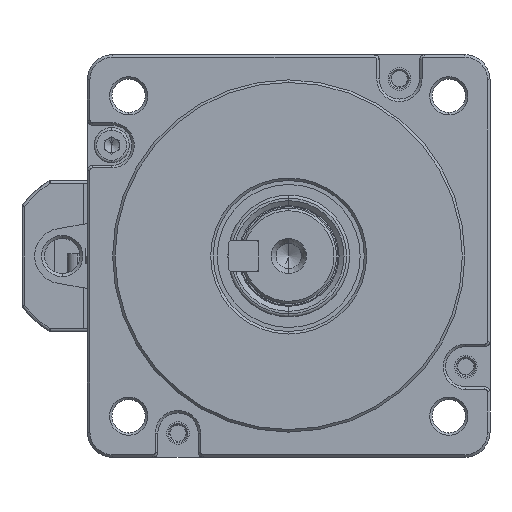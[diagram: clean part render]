
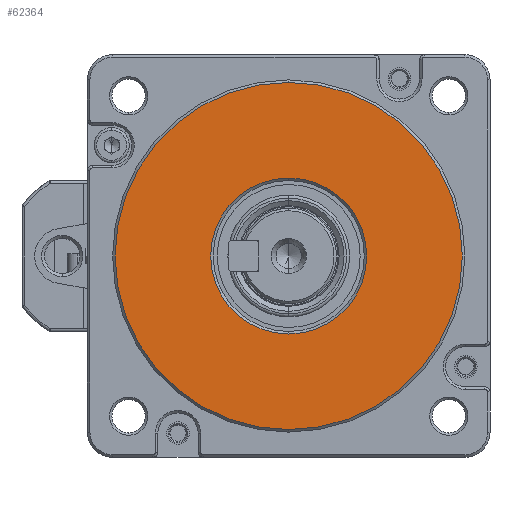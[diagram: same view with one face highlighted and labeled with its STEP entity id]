
A CAD part, left-side view. The second image highlights one B-rep face of the part: STEP entity #62364.
In plain terms, the highlighted planar face has unit normal (-1, 0, 0).
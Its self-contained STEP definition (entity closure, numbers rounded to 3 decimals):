
#1587 = EDGE_CURVE ( 'NONE', #29029, #38959, #10314, .T. ) ;
#6407 = CIRCLE ( 'NONE', #33861, 15.5 ) ;
#7163 = CARTESIAN_POINT ( 'NONE',  ( 4.324, 2.652, 2.727 ) ) ;
#8227 = CARTESIAN_POINT ( 'NONE',  ( 4.324, 2.652, 18.227 ) ) ;
#8242 = EDGE_LOOP ( 'NONE', ( #18061, #15653 ) ) ;
#9325 = EDGE_CURVE ( 'NONE', #36021, #63057, #36595, .T. ) ;
#10314 = CIRCLE ( 'NONE', #66228, 34.5 ) ;
#14439 = EDGE_CURVE ( 'NONE', #38959, #29029, #19764, .T. ) ;
#15653 = ORIENTED_EDGE ( 'NONE', *, *, #1587, .T. ) ;
#17363 = DIRECTION ( 'NONE',  ( 0., 0., 1. ) ) ;
#18061 = ORIENTED_EDGE ( 'NONE', *, *, #14439, .T. ) ;
#19764 = CIRCLE ( 'NONE', #64734, 34.5 ) ;
#20107 = FACE_BOUND ( 'NONE', #41307, .T. ) ;
#21071 = CARTESIAN_POINT ( 'NONE',  ( 4.324, 2.652, 2.727 ) ) ;
#21781 = FACE_OUTER_BOUND ( 'NONE', #8242, .T. ) ;
#22384 = CARTESIAN_POINT ( 'NONE',  ( 4.324, 2.652, 2.727 ) ) ;
#26333 = DIRECTION ( 'NONE',  ( 0., 0., 1. ) ) ;
#27190 = DIRECTION ( 'NONE',  ( -1., 0., 0. ) ) ;
#29029 = VERTEX_POINT ( 'NONE', #49547 ) ;
#29476 = EDGE_CURVE ( 'NONE', #63057, #36021, #6407, .T. ) ;
#32284 = PLANE ( 'NONE',  #48594 ) ;
#33861 = AXIS2_PLACEMENT_3D ( 'NONE', #54471, #43585, #59517 ) ;
#34951 = CARTESIAN_POINT ( 'NONE',  ( 4.324, 2.652, -12.773 ) ) ;
#36021 = VERTEX_POINT ( 'NONE', #8227 ) ;
#36508 = CARTESIAN_POINT ( 'NONE',  ( 4.324, 2.652, 2.727 ) ) ;
#36595 = CIRCLE ( 'NONE', #57384, 15.5 ) ;
#36748 = DIRECTION ( 'NONE',  ( 0., 0., 1. ) ) ;
#38650 = ORIENTED_EDGE ( 'NONE', *, *, #29476, .T. ) ;
#38959 = VERTEX_POINT ( 'NONE', #39088 ) ;
#39088 = CARTESIAN_POINT ( 'NONE',  ( 4.324, 2.652, -31.773 ) ) ;
#41307 = EDGE_LOOP ( 'NONE', ( #54790, #38650 ) ) ;
#43268 = DIRECTION ( 'NONE',  ( 1., 0., 0. ) ) ;
#43585 = DIRECTION ( 'NONE',  ( 1., 0., 0. ) ) ;
#48594 = AXIS2_PLACEMENT_3D ( 'NONE', #22384, #27190, #17363 ) ;
#49547 = CARTESIAN_POINT ( 'NONE',  ( 4.324, 2.652, 37.227 ) ) ;
#54471 = CARTESIAN_POINT ( 'NONE',  ( 4.324, 2.652, 2.727 ) ) ;
#54790 = ORIENTED_EDGE ( 'NONE', *, *, #9325, .T. ) ;
#57384 = AXIS2_PLACEMENT_3D ( 'NONE', #7163, #43268, #64715 ) ;
#57594 = DIRECTION ( 'NONE',  ( -1., 0., 0. ) ) ;
#59517 = DIRECTION ( 'NONE',  ( 0., 0., 1. ) ) ;
#62364 = ADVANCED_FACE ( 'NONE', ( #21781, #20107 ), #32284, .T. ) ;
#62747 = DIRECTION ( 'NONE',  ( -1., 0., 0. ) ) ;
#63057 = VERTEX_POINT ( 'NONE', #34951 ) ;
#64715 = DIRECTION ( 'NONE',  ( 0., 0., 1. ) ) ;
#64734 = AXIS2_PLACEMENT_3D ( 'NONE', #21071, #57594, #26333 ) ;
#66228 = AXIS2_PLACEMENT_3D ( 'NONE', #36508, #62747, #36748 ) ;
